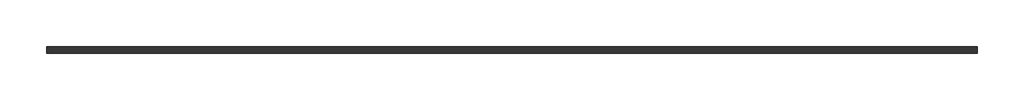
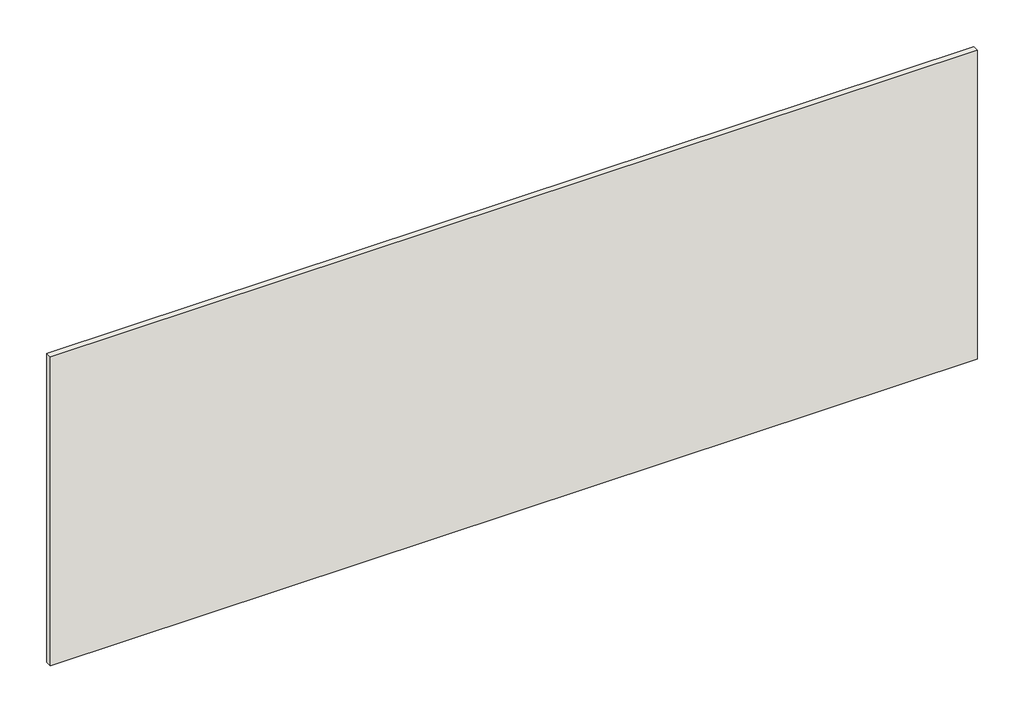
# One storey, incomplete: 1 wall.
"""IFC4 building model written with IfcOpenShell, lengths in millimetres."""

from ifc_helpers import new_model, si_unit, frame, origin, place, context, project, spatial, polyline, outline, extrude, element, save

model = new_model("IFC4")

# Units and contexts
model_context = context("Model", 3, world=origin())
ifc_project = project(units=[si_unit("LENGTHUNIT", "METRE", prefix="MILLI")], contexts=[model_context])

# Site, building, storey
site = spatial("IfcSite", under=ifc_project)
building = spatial("IfcBuilding", under=site)
storey = spatial("IfcBuildingStorey", under=building, Name="- 2 - Sopra HFR", Elevation=-2450.0)

# Wall
placement = place(None, origin())
element("IfcWall", 1, ObjectType="FIBRO HFR verticale VOLTECO", at=placement, inside=storey, context=model_context, shape_type="SweptSolid", body=[
    extrude(outline(polyline([(-5477.8968209, 278.648913), (1472.1031791, 278.648913), (1472.1031791, 228.648913), (-5477.8968209, 228.648913), (-5477.8968209, 278.648913)])), frame((0.0, 0.0, -2450.0), z_axis=(0.0, 0.0, 1.0), x_axis=(1.0, 0.0, 0.0)), (0.0, 0.0, 1.0), 2450.0),
])

save(model, "model.ifc")
